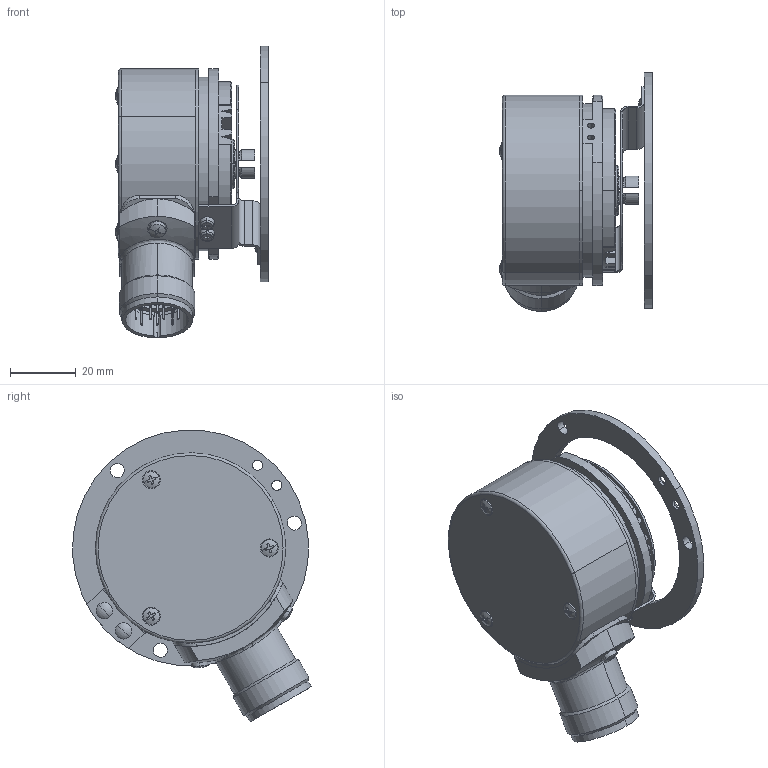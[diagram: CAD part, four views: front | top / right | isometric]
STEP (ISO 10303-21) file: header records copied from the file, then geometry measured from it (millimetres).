
FILE_DESCRIPTION (( 'STEP AP214' ), '1' );
FILE_NAME ('5824.42X2.XXXX.STEP', '2010-05-10T11:16:15', ( 'admin' ), ( 'Fritz Kübler GmbH' ), 'SwSTEP 2.0', 'SolidWorks 2009', '' );
FILE_SCHEMA (( 'AUTOMOTIVE_DESIGN' ));
Length unit declared in the file: millimetre
Products named in the file (1): 5824.42X2.XXXX
Bounding box: 46.58 x 72.74 x 88.94 mm (x, y, z)
Volume: 60123.5 mm3; surface area: 47247.7 mm2
Topology: 32 solids, 32 shells, 1001 faces, 2292 edges, 1410 vertices
Faces by surface type: cylinder 446, plane 295, cone 166, torus 52, sphere 38, bspline 4
Entity records: 41902 total; most frequent: CARTESIAN_POINT 7274, DIRECTION 5310, ORIENTED_EDGE 4476, EDGE_CURVE 2238, AXIS2_PLACEMENT_3D 2174, VERTEX_POINT 1410, EDGE_LOOP 1186, CIRCLE 1176
